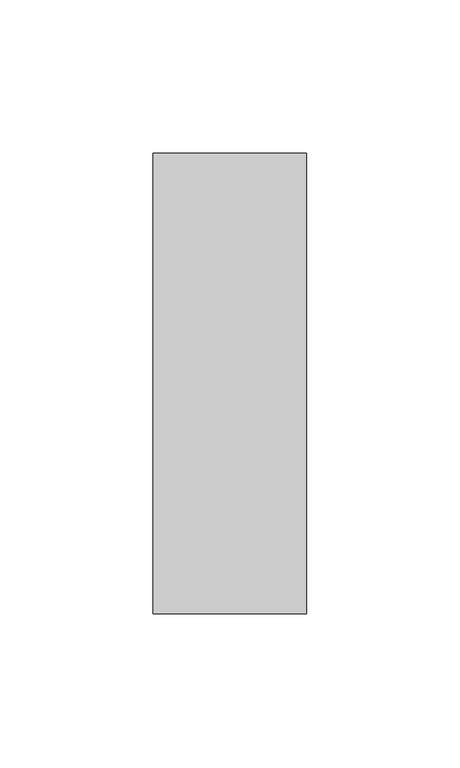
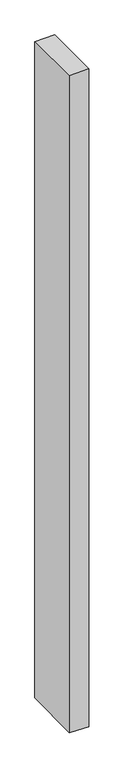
"""IFC4 building model written with IfcOpenShell, lengths in millimetres: member geometry, Прямоугольный импост : 50 x 150 мм."""

from ifc_helpers import new_model, si_unit, origin, place, context, project, spatial, faceted_brep, source, transform, mapped, element, save


def member_8cce763c(model_context):
    return source(origin(), model_context, "Body", "Brep", [
        faceted_brep([(-25.0, 75.0, -0.6932569), (25.0, 75.0, 0.4691862), (25.0, 75.0, -1759.5464052), (-25.0, 75.0, -1758.4305099), (-25.0, -75.0, -0.4691862), (-25.0, -75.0, -1761.0390237), (25.0, -75.0, 0.6932569), (25.0, -75.0, -1762.154919)], [[[0, 1, 2, 3]], [[4, 0, 3, 5]], [[6, 4, 5, 7]], [[1, 6, 7, 2]], [[1, 0, 4, 6]], [[2, 7, 5, 3]]]),
    ])


if __name__ == "__main__":
    model = new_model("IFC4")
    model_context = context("Model", 3, world=origin())
    ifc_project = project(units=[si_unit("LENGTHUNIT", "METRE", prefix="MILLI")], contexts=[model_context])
    site = spatial("IfcSite", under=ifc_project)
    building = spatial("IfcBuilding", under=site)
    placement = place(None, origin())
    member_shape = member_8cce763c(model_context)
    element("IfcMember", 1, ObjectType="Прямоугольный импост : 50 x 150 мм", at=placement, inside=building, context=model_context, shape_type="MappedRepresentation", body=[
        mapped(member_shape, transform((0.0, 0.0, 0.0), x_axis=(1.0, 0.0, 0.0), y_axis=(0.0, 1.0, 0.0), z_axis=(0.0, 0.0, 1.0))),
    ])
    save(model, "model.ifc")
